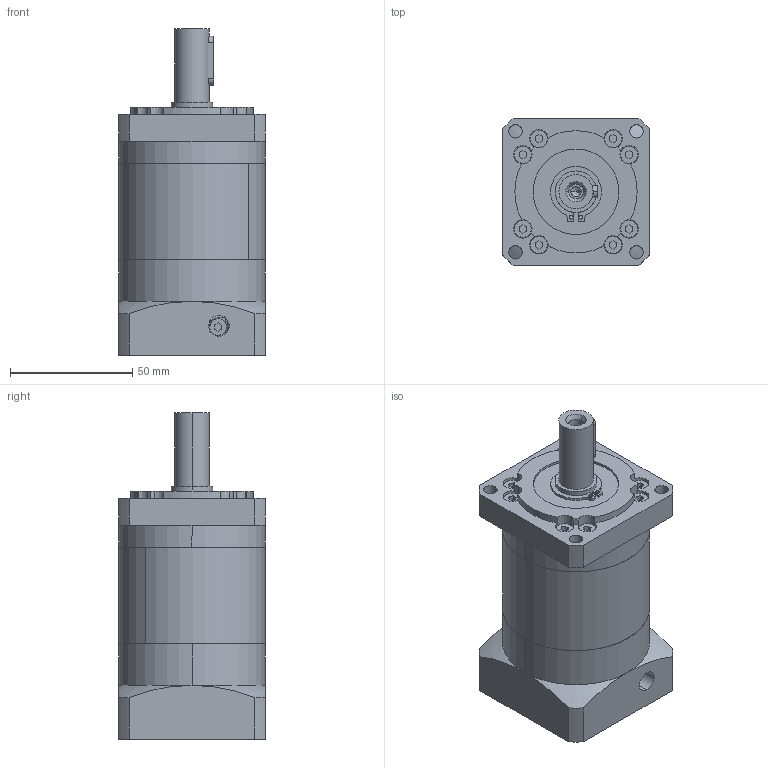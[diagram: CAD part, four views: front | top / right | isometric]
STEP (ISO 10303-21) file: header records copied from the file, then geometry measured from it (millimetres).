
FILE_DESCRIPTION (( 'STEP AP203' ), '1' );
FILE_NAME ('PLF060-L2-20-57-8x31.STEP', '2020-11-28T06:28:08', ( 'USER-' ), ( 'MS' ), 'SwSTEP 2.0', 'SolidWorks 2018', '' );
FILE_SCHEMA (( 'CONFIG_CONTROL_DESIGN' ));
Length unit declared in the file: millimetre
Products named in the file (8): PRF60 ___w___D1-70 D2-5.5 D3-14 D4-17 D5-50 L1-30 L2-35 L3-3 A1-60 S1-3 S2-20 S3-5 S4-18 B-5 H-16 C-M5 ____^PLF060-L2(2)_PLF060-L2; PRF60 ___w___D6-60 D7-14 ____^PLF060-L2(2)_PLF060-L2; PRF60-_B____-_____D8-50 D9-70 D10-M10 L4-22 L6-32(22+10) L7-4 A2-60 R-39.5 ____^PLF060-L2(2)_PLF060-L2; ______ 5x5x20^PLF060-L2(2)_PLF060-L2; ____-6004 20x42x12^PLF060-L2(2)_PLF060-L2; PLF060-L2-20-57-8x31; __________-M4__12^PLF060-L2(2)_PLF060-L2; PRF60 _________________^PLF060-L2(2)_PLF060-L2
Assembly tree (7 placements, depth 2):
  PLF060-L2-20-57-8x31
    __________-M4__12^PLF060-L2(2)_PLF060-L2
    PRF60 _________________^PLF060-L2(2)_PLF060-L2
    PRF60 ___w___D1-70 D2-5.5 D3-14 D4-17 D5-50 L1-30 L2-35 L3-3 A1-60 S1-3 S2-20 S3-5 S4-18 B-5 H-16 C-M5 ____^PLF060-L2(2)_PLF060-L2
    PRF60 ___w___D6-60 D7-14 ____^PLF060-L2(2)_PLF060-L2
    PRF60-_B____-_____D8-50 D9-70 D10-M10 L4-22 L6-32(22+10) L7-4 A2-60 R-39.5 ____^PLF060-L2(2)_PLF060-L2
    ______ 5x5x20^PLF060-L2(2)_PLF060-L2
    ____-6004 20x42x12^PLF060-L2(2)_PLF060-L2
Bounding box: 60 x 60 x 133.5 mm (x, y, z)
Volume: 280651.4 mm3; surface area: 71720.5 mm2
Topology: 7 solids, 7 shells, 534 faces, 1470 edges, 937 vertices
Faces by surface type: cylinder 183, plane 182, sphere 108, torus 46, cone 15
Entity records: 21532 total; most frequent: CARTESIAN_POINT 7399, ORIENTED_EDGE 2812, DIRECTION 2793, EDGE_CURVE 1406, AXIS2_PLACEMENT_3D 1168, VERTEX_POINT 919, EDGE_LOOP 631, CIRCLE 624
